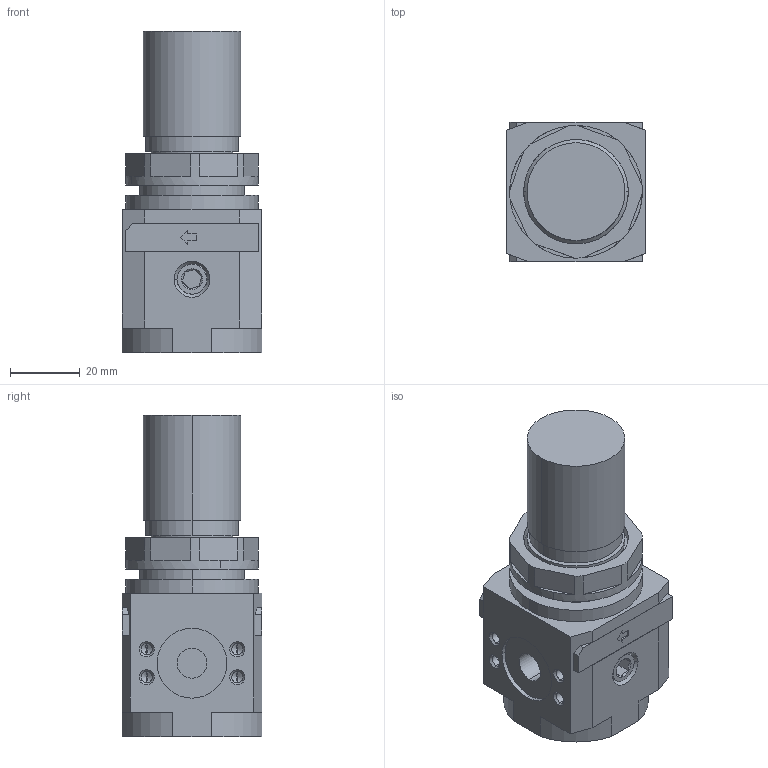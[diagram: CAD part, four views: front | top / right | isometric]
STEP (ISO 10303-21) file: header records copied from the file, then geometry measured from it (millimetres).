
FILE_DESCRIPTION((''),'2;1');
FILE_NAME('I:\DOC-EDP\Lib-3d\FRL\17102A_.stp','2003-06-16T14:46:19',('maffial1'),(''),'Autodesk Inventor 7','Autodesk Inventor 7','');
FILE_SCHEMA(('AUTOMOTIVE_DESIGN { 1 0 10303 214 1 1 1 1 }'));
Length unit declared in the file: millimetre
Products named in the file (4): 17102A_; 17102A_(1); RS_1701_12; RK_1701_020
Assembly tree (3 placements, depth 2):
  17102A_
    17102A_(1)
    RS_1701_12
    RK_1701_020
Bounding box: 40 x 40 x 92 mm (x, y, z)
Volume: 96365.5 mm3; surface area: 22536.3 mm2
Topology: 3 solids, 5 shells, 211 faces, 507 edges, 311 vertices
Faces by surface type: plane 73, bspline 58, cylinder 44, cone 32, torus 4
Entity records: 6504 total; most frequent: CARTESIAN_POINT 1690, ORIENTED_EDGE 974, DIRECTION 966, EDGE_CURVE 487, AXIS2_PLACEMENT_3D 331, VERTEX_POINT 311, VECTOR 304, LINE 304
